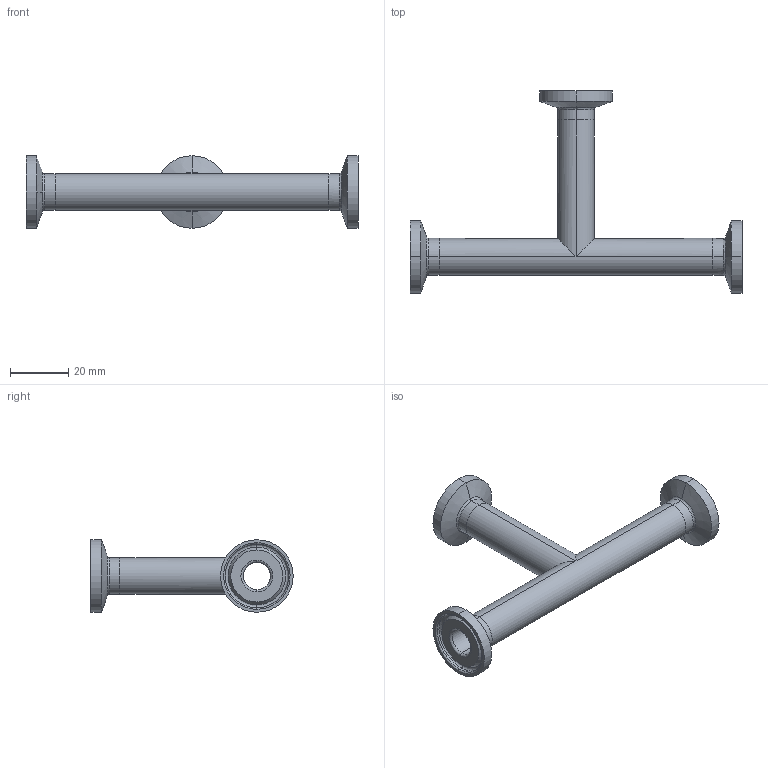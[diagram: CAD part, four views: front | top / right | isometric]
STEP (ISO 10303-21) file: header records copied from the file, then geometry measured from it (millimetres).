
FILE_DESCRIPTION (( 'STEP AP214' ), '1' );
FILE_NAME ('TEG76L.5-...STEP', '2016-05-23T06:33:53', ( 'eran' ), ( '' ), 'SwSTEP 2.0', 'SolidWorks 2016', '' );
FILE_SCHEMA (( 'AUTOMOTIVE_DESIGN' ));
Length unit declared in the file: millimetre
Products named in the file (1): TEG76L.5-..
Bounding box: 114.4 x 69.7 x 24.99 mm (x, y, z)
Volume: 13373.7 mm3; surface area: 14676.7 mm2
Topology: 4 solids, 4 shells, 82 faces, 184 edges, 112 vertices
Faces by surface type: cylinder 34, bspline 24, plane 12, cone 12
Entity records: 2657 total; most frequent: CARTESIAN_POINT 787, DIRECTION 406, ORIENTED_EDGE 368, EDGE_CURVE 184, AXIS2_PLACEMENT_3D 179, CIRCLE 120, VERTEX_POINT 112, EDGE_LOOP 94
